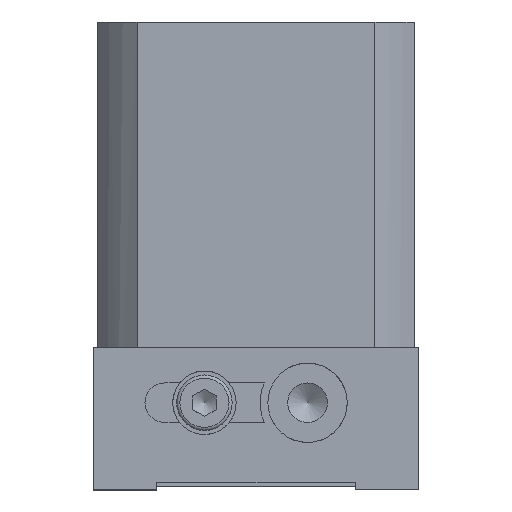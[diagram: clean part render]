
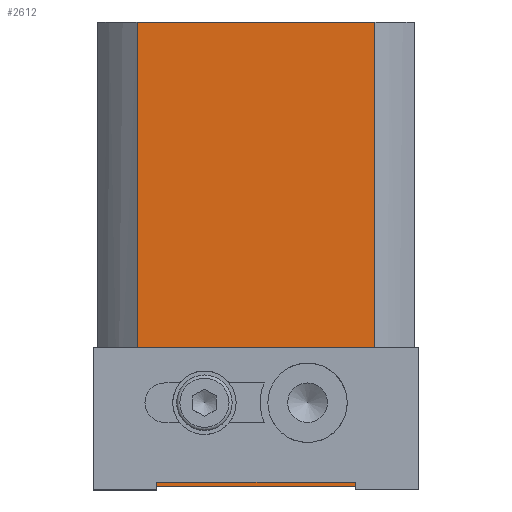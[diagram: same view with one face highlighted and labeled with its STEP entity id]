
A CAD part, left-side view. The second image highlights one B-rep face of the part: STEP entity #2612.
In plain terms, the highlighted planar face has unit normal (-1, 0, 0).
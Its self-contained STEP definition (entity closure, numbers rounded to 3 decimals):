
#2527=CARTESIAN_POINT('',(-20.,26.5,-43.));
#2528=VERTEX_POINT('',#2527);
#2529=CARTESIAN_POINT('',(-20.,26.5,-48.));
#2530=DIRECTION('',(1.0,0.0,0.0));
#2531=DIRECTION('',(0.0,0.0,-1.0));
#2532=AXIS2_PLACEMENT_3D('',#2529,#2530,#2531);
#2533=CIRCLE('',#2532,5.0);
#2534=EDGE_CURVE('',#2528,#2528,#2533,.T.);
#2559=CARTESIAN_POINT('',(-20.,35.,0.0));
#2560=DIRECTION('',(-1.0,0.0,0.0));
#2561=DIRECTION('',(0.0,0.0,1.0));
#2562=AXIS2_PLACEMENT_3D('',#2559,#2560,#2561);
#2563=PLANE('',#2562);
#2564=CARTESIAN_POINT('',(-20.,5.,0.0));
#2565=VERTEX_POINT('',#2564);
#2566=CARTESIAN_POINT('',(-20.,5.,-58.5));
#2567=VERTEX_POINT('',#2566);
#2568=CARTESIAN_POINT('',(-20.,5.,0.0));
#2569=DIRECTION('',(0.0,0.0,-1.0));
#2570=VECTOR('',#2569,58.5);
#2571=LINE('',#2568,#2570);
#2572=EDGE_CURVE('',#2565,#2567,#2571,.T.);
#2573=ORIENTED_EDGE('',*,*,#2572,.F.);
#2574=CARTESIAN_POINT('',(-20.,35.,0.0));
#2575=VERTEX_POINT('',#2574);
#2576=CARTESIAN_POINT('',(-20.,35.,0.0));
#2577=DIRECTION('',(0.0,-1.0,0.0));
#2578=VECTOR('',#2577,30.);
#2579=LINE('',#2576,#2578);
#2580=EDGE_CURVE('',#2575,#2565,#2579,.T.);
#2581=ORIENTED_EDGE('',*,*,#2580,.F.);
#2582=CARTESIAN_POINT('',(-20.,35.,-58.5));
#2583=VERTEX_POINT('',#2582);
#2584=CARTESIAN_POINT('',(-20.,35.,0.0));
#2585=DIRECTION('',(0.0,0.0,-1.0));
#2586=VECTOR('',#2585,58.5);
#2587=LINE('',#2584,#2586);
#2588=EDGE_CURVE('',#2575,#2583,#2587,.T.);
#2589=ORIENTED_EDGE('',*,*,#2588,.T.);
#2590=CARTESIAN_POINT('',(-20.,35.,-58.5));
#2591=DIRECTION('',(0.0,-1.0,0.0));
#2592=VECTOR('',#2591,30.);
#2593=LINE('',#2590,#2592);
#2594=EDGE_CURVE('',#2583,#2567,#2593,.T.);
#2595=ORIENTED_EDGE('',*,*,#2594,.T.);
#2596=EDGE_LOOP('',(#2573,#2581,#2589,#2595));
#2597=FACE_OUTER_BOUND('',#2596,.T.);
#2598=CARTESIAN_POINT('',(-20.,13.5,-43.));
#2599=VERTEX_POINT('',#2598);
#2600=CARTESIAN_POINT('',(-20.,13.5,-48.));
#2601=DIRECTION('',(1.0,0.0,0.0));
#2602=DIRECTION('',(0.0,0.0,-1.0));
#2603=AXIS2_PLACEMENT_3D('',#2600,#2601,#2602);
#2604=CIRCLE('',#2603,5.0);
#2605=EDGE_CURVE('',#2599,#2599,#2604,.T.);
#2606=ORIENTED_EDGE('',*,*,#2605,.T.);
#2607=EDGE_LOOP('',(#2606));
#2608=FACE_BOUND('',#2607,.T.);
#2609=ORIENTED_EDGE('',*,*,#2534,.T.);
#2610=EDGE_LOOP('',(#2609));
#2611=FACE_BOUND('',#2610,.T.);
#2612=ADVANCED_FACE('',(#2597,#2608,#2611),#2563,.T.);
